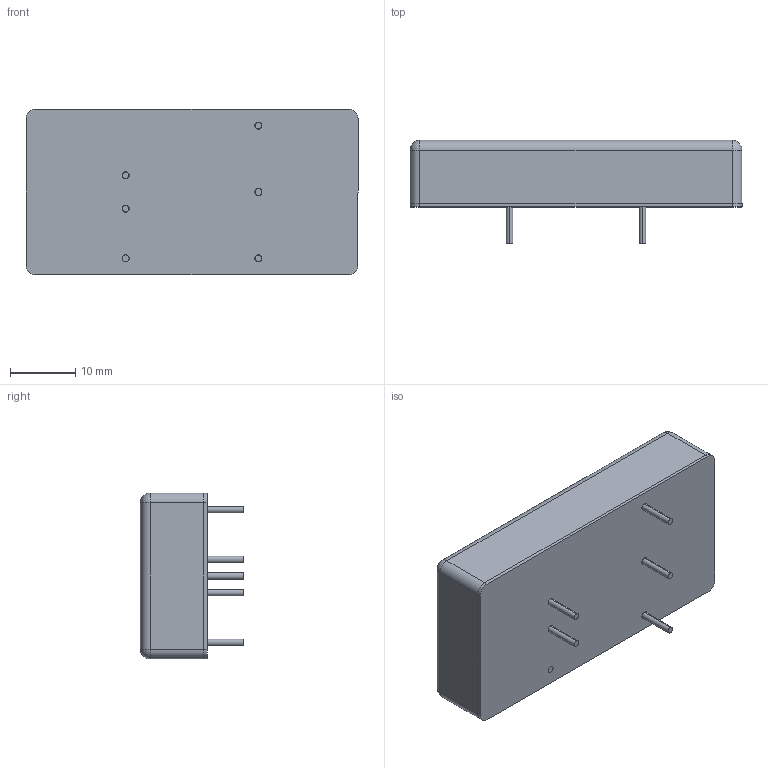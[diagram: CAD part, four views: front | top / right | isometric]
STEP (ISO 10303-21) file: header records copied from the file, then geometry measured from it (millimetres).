
FILE_DESCRIPTION (( 'STEP AP214' ), '1' );
FILE_NAME ('EC4BE.STEP', '2018-01-03T06:43:06', ( 'cincon' ), ( '' ), 'SwSTEP 2.0', 'SolidWorks 2008', '' );
FILE_SCHEMA (( 'AUTOMOTIVE_DESIGN' ));
Length unit declared in the file: millimetre
Products named in the file (5): EC4BW灌膠示意圖-1040826; EC4BW BASE-1040826_預設; EC4BW CASE-1040826_預設; EC4BE; EC4BW PCB示意圖-1040826
Assembly tree (4 placements, depth 2):
  EC4BE
    EC4BW BASE-1040826_預設
    EC4BW灌膠示意圖-1040826
    EC4BW PCB示意圖-1040826
    EC4BW CASE-1040826_預設
Bounding box: 50.8 x 15.8 x 25.4 mm (x, y, z)
Volume: 14304.7 mm3; surface area: 14403 mm2
Topology: 9 solids, 9 shells, 143 faces, 310 edges, 185 vertices
Faces by surface type: cylinder 64, plane 45, sphere 22, cone 10, bspline 2
Entity records: 4252 total; most frequent: CARTESIAN_POINT 769, DIRECTION 754, ORIENTED_EDGE 596, AXIS2_PLACEMENT_3D 310, EDGE_CURVE 298, VERTEX_POINT 185, EDGE_LOOP 167, CIRCLE 162
